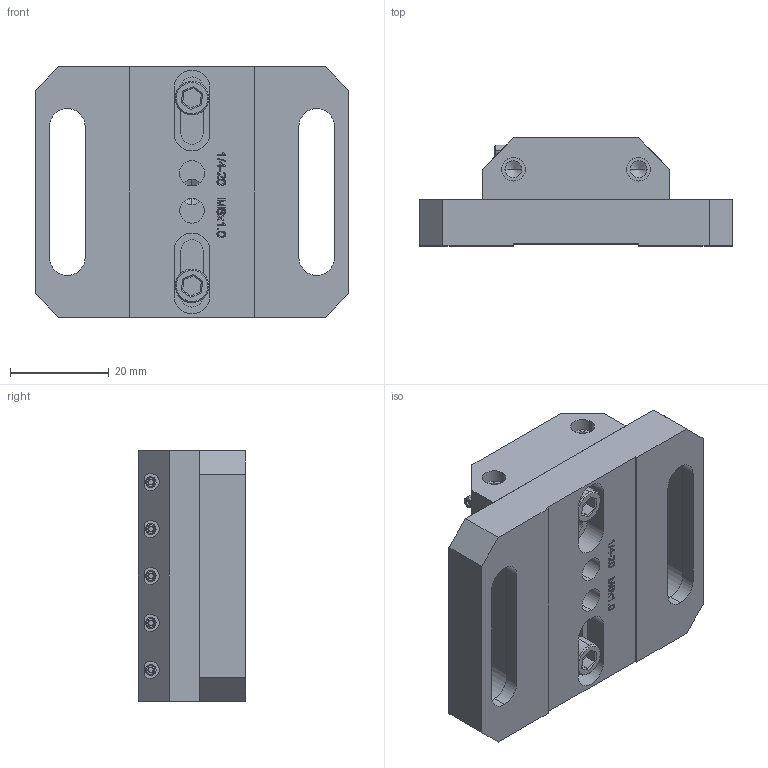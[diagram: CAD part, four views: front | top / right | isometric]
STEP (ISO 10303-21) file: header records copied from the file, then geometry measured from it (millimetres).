
FILE_DESCRIPTION (( 'STEP AP203' ), '1' );
FILE_NAME ('17154-E0W.STEP', '2018-09-12T17:49:13', ( '' ), ( '' ), 'SwSTEP 2.0', 'SolidWorks 2018', '' );
FILE_SCHEMA (( 'CONFIG_CONTROL_DESIGN' ));
Length unit declared in the file: inch
Products named in the file (1): 17154-E0W
Bounding box: 63.5 x 21.84 x 50.8 mm (x, y, z)
Volume: 42834 mm3; surface area: 17845.7 mm2
Topology: 9 solids, 9 shells, 714 faces, 1722 edges, 1095 vertices
Faces by surface type: plane 394, bspline 131, cylinder 123, cone 66
Entity records: 24773 total; most frequent: CARTESIAN_POINT 8759, ORIENTED_EDGE 3416, DIRECTION 2912, EDGE_CURVE 1708, VECTOR 1118, LINE 1118, VERTEX_POINT 1095, AXIS2_PLACEMENT_3D 897
